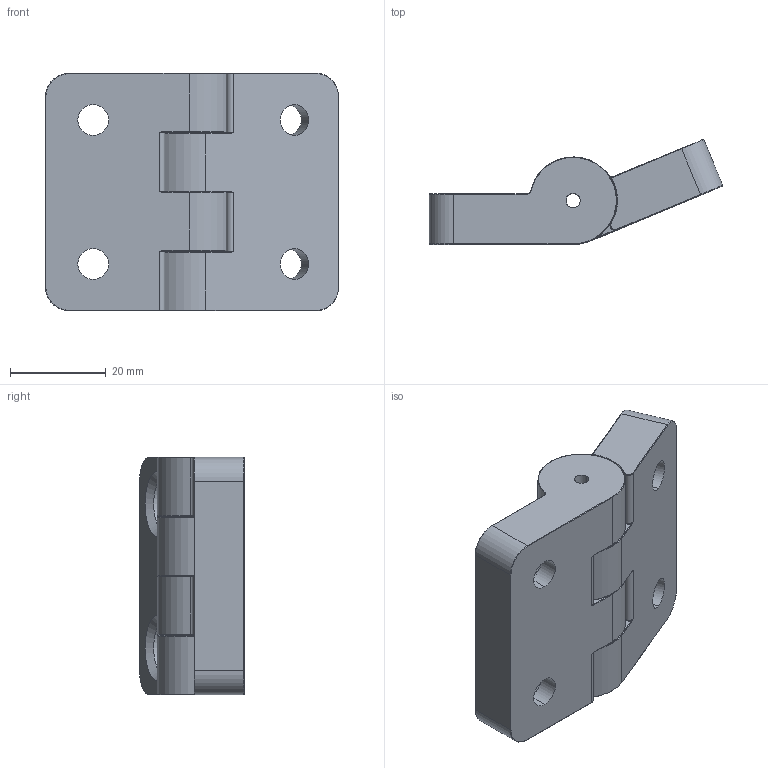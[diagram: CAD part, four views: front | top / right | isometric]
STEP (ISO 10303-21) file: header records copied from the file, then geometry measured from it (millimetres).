
FILE_DESCRIPTION (( 'STEP AP214' ), '1' );
FILE_NAME ('8-8-40.STEP', '2019-01-13T19:05:55', ( '' ), ( '' ), 'SwSTEP 2.0', 'SolidWorks 2018', '' );
FILE_SCHEMA (( 'AUTOMOTIVE_DESIGN' ));
Length unit declared in the file: millimetre
Products named in the file (2): 8-8-40; 4040
Assembly tree (2 placements, depth 2):
  8-8-40
    4040  x2
Bounding box: 61.17 x 21.85 x 49.5 mm (x, y, z)
Volume: 32405.1 mm3; surface area: 12555.1 mm2
Topology: 2 solids, 2 shells, 174 faces, 416 edges, 238 vertices
Faces by surface type: cylinder 76, torus 58, plane 20, bspline 12, cone 8
Entity records: 2754 total; most frequent: CARTESIAN_POINT 647, DIRECTION 484, ORIENTED_EDGE 404, AXIS2_PLACEMENT_3D 212, EDGE_CURVE 202, CIRCLE 126, VERTEX_POINT 119, EDGE_LOOP 97
